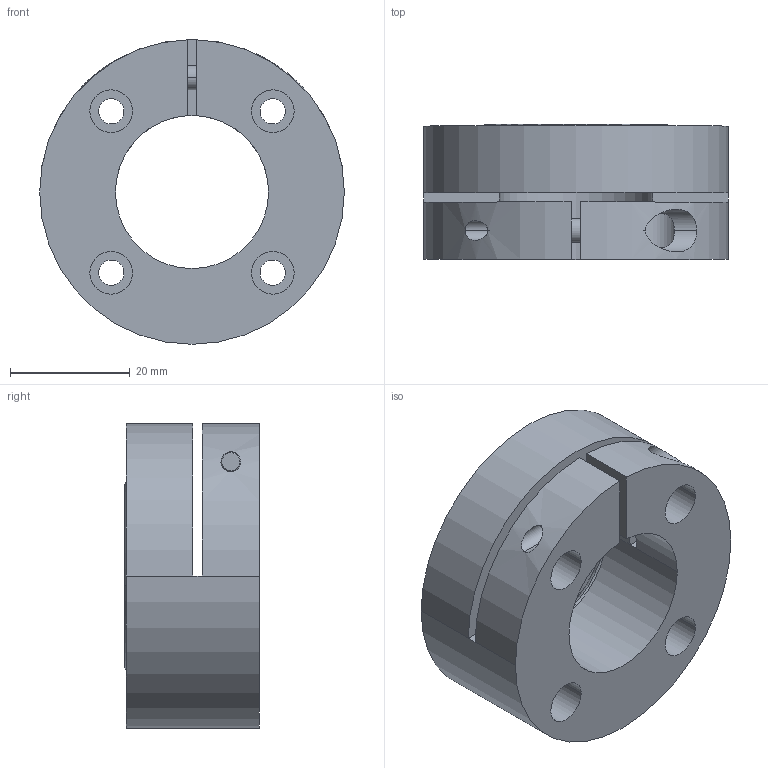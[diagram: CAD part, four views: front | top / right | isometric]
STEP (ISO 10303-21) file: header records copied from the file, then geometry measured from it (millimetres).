
FILE_DESCRIPTION (( 'STEP AP214' ), '1' );
FILE_NAME ('TC-19.STEP', '2017-01-17T17:00:11', ( '' ), ( '' ), 'SwSTEP 2.0', 'SolidWorks 2017', '' );
FILE_SCHEMA (( 'AUTOMOTIVE_DESIGN' ));
Length unit declared in the file: inch
Products named in the file (1): TC-19
Bounding box: 50.8 x 22.48 x 50.8 mm (x, y, z)
Volume: 29177.4 mm3; surface area: 13575.7 mm2
Topology: 4 solids, 4 shells, 98 faces, 233 edges, 148 vertices
Faces by surface type: cylinder 56, plane 28, torus 12, cone 2
Entity records: 3172 total; most frequent: CARTESIAN_POINT 668, DIRECTION 559, ORIENTED_EDGE 466, EDGE_CURVE 233, AXIS2_PLACEMENT_3D 233, VERTEX_POINT 148, CIRCLE 134, EDGE_LOOP 127
